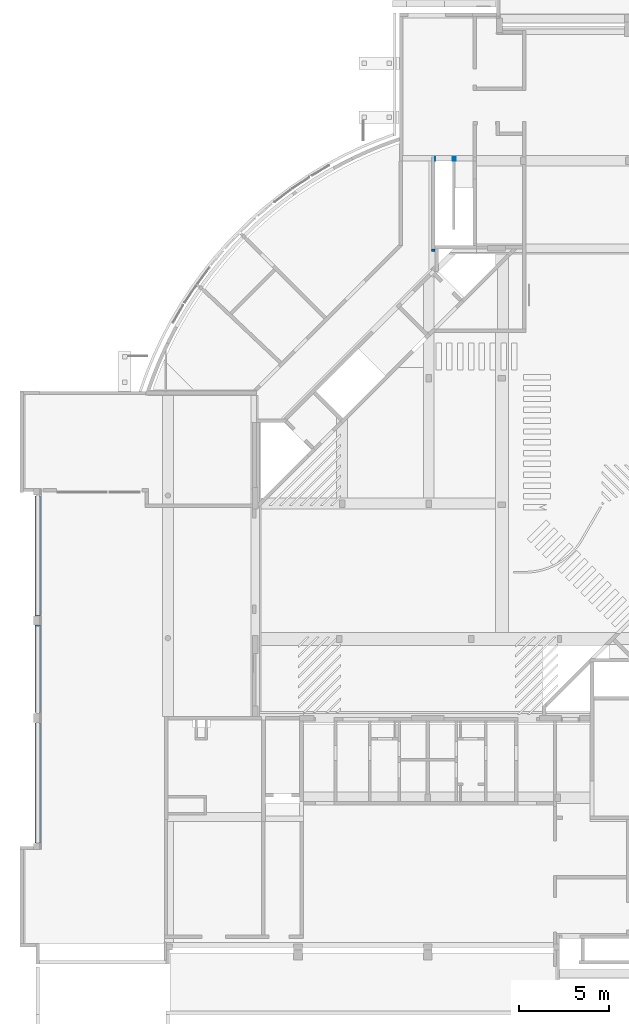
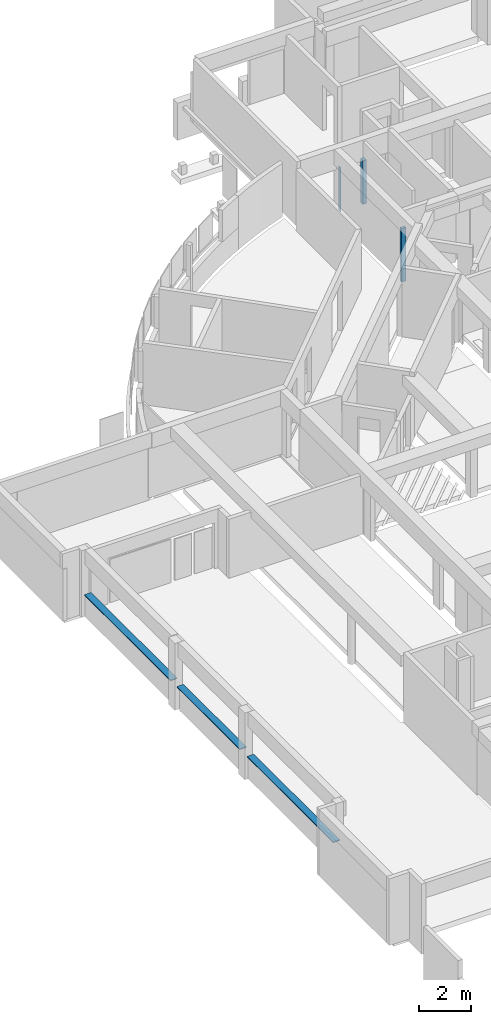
# One storey, part 11 of 22: 3 discrete accessories, 2 walls.
"""IFC4X3_ADD2 building model written with IfcOpenShell, lengths in millimetres."""

import ifcopenshell
import ifcopenshell.guid

model = None  # the IFC model being written
_history = None  # IfcOwnerHistory: only IFC2X3 demands one
_inside = {}  # id of a spatial element -> (the spatial element, [elements in it])
_under = {}  # id of a project, library or spatial element -> (it, [spatial elements below it])
_declared = {}  # id of a project -> (the project, [libraries it declares])
_typed = {}  # id of a type object -> (the type object, [elements of that type])
_made_of = {}  # id of a material, layer set ... -> (it, [elements and type objects made of it])


def new_model(schema):
    """Start an empty IFC model of exactly this schema.

    Asked for "IFC4X3", IfcOpenShell would pick the latest addendum, in which some entities
    have other attributes; the version numbers below select the first issue.
    IFC2X3 requires an IfcOwnerHistory on every rooted entity: one is made here for all.
    """
    global model, _history
    if schema == "IFC4X3":
        model = ifcopenshell.file(schema_version=(4, 3, 0, 0))
    else:
        model = ifcopenshell.file(schema=schema)
    _inside.clear()
    _under.clear()
    _declared.clear()
    _typed.clear()
    _made_of.clear()
    _history = None
    if model.schema == "IFC2X3":
        org = make("IfcOrganization", Name="unknown")
        user = make(
            "IfcPersonAndOrganization",
            ThePerson=make("IfcPerson", FamilyName="unknown"),
            TheOrganization=org,
        )
        app = make(
            "IfcApplication",
            ApplicationDeveloper=org,
            Version="unknown",
            ApplicationFullName="unknown",
            ApplicationIdentifier="unknown",
        )
        _history = make(
            "IfcOwnerHistory",
            OwningUser=user,
            OwningApplication=app,
            ChangeAction="ADDED",
            CreationDate=0,
        )
    return model


def make(cls, **values):
    """One entity of the class cls with the attributes given. An attribute that is None is left unset."""
    return model.create_entity(
        cls, **{name: value for name, value in values.items() if value is not None}
    )


def rooted(cls, **values):
    """An entity with a GlobalId (a new one), such as an element, a storey or a relation."""
    return make(cls, GlobalId=ifcopenshell.guid.new(), OwnerHistory=_history, **values)


def si_unit(unit_type, name, prefix=None):
    """IfcSIUnit, for example si_unit("LENGTHUNIT", "METRE", prefix="MILLI")."""
    return make("IfcSIUnit", UnitType=unit_type, Prefix=prefix, Name=name)


def assignment(units):
    """IfcUnitAssignment: the units of a project."""
    return None if units is None else make("IfcUnitAssignment", Units=units)


def point(xyz):
    """IfcCartesianPoint."""
    return None if xyz is None else make("IfcCartesianPoint", Coordinates=xyz)


def direction(xyz):
    """IfcDirection."""
    return None if xyz is None else make("IfcDirection", DirectionRatios=xyz)


def frame(location, z_axis=None, x_axis=None):
    """IfcAxis2Placement3D, a coordinate frame: its origin and axes. An axis left out is left unset."""
    return make(
        "IfcAxis2Placement3D",
        Location=point(location),
        Axis=direction(z_axis),
        RefDirection=direction(x_axis),
    )


def frame_2d(location, x_axis=None):
    """IfcAxis2Placement2D, a coordinate frame in the plane: its origin and x axis."""
    return make(
        "IfcAxis2Placement2D", Location=point(location), RefDirection=direction(x_axis)
    )


def origin_with_axes():
    """The frame at (0, 0, 0) with the z axis (0, 0, 1) and the x axis (1, 0, 0) written out."""
    return frame((0.0, 0.0, 0.0), z_axis=(0.0, 0.0, 1.0), x_axis=(1.0, 0.0, 0.0))


def origin_2d_with_axis():
    """The frame at (0, 0) in the plane with the x axis (1, 0) written out."""
    return frame_2d((0.0, 0.0), x_axis=(1.0, 0.0))


def place(relative_to, where):
    """IfcLocalPlacement: puts the frame where relative to a parent placement (None: the world)."""
    return make(
        "IfcLocalPlacement", PlacementRelTo=relative_to, RelativePlacement=where
    )


def context(
    kind, dimensions, precision=None, world=None, true_north=None, identifier=None
):
    """IfcGeometricRepresentationContext, for example the 3D "Model" context."""
    return make(
        "IfcGeometricRepresentationContext",
        ContextIdentifier=identifier,
        ContextType=kind,
        CoordinateSpaceDimension=dimensions,
        Precision=precision,
        WorldCoordinateSystem=world,
        TrueNorth=true_north,
    )


def subcontext(parent, identifier, kind, view, scale=None):
    """IfcGeometricRepresentationSubContext, for example "Body" below "Model"."""
    return make(
        "IfcGeometricRepresentationSubContext",
        ContextIdentifier=identifier,
        ContextType=kind,
        ParentContext=parent,
        TargetScale=scale,
        TargetView=view,
    )


def project(units=None, contexts=None):
    """IfcProject with its units and contexts."""
    return rooted(
        "IfcProject",
        Name="project",
        RepresentationContexts=contexts,
        UnitsInContext=assignment(units),
    )


def spatial(cls, under=None, at=None, **own):
    """A site, building, storey or space (cls), placed at a placement, below another one or the project."""
    s = rooted(cls, ObjectPlacement=at, **own)
    if under is not None:
        _under.setdefault(under.id(), (under, []))[1].append(s)
    return s


def point_list(points):
    """IfcCartesianPointList2D or 3D."""
    cls = (
        "IfcCartesianPointList2D" if len(points[0]) == 2 else "IfcCartesianPointList3D"
    )
    return make(cls, CoordList=points)


def profile(cls, at=None, kind="AREA", **sizes):
    """A parametric profile (cls). Its sizes go by their IFC names, for example OverallWidth=200.0."""
    return make(cls, ProfileType=kind, Position=at, **sizes)


def rectangle(**sizes):
    """IfcRectangleProfileDef."""
    return profile("IfcRectangleProfileDef", **sizes)


def extrude(swept, where, along, depth):
    """IfcExtrudedAreaSolid: the profile swept, set in the frame where, extruded along a direction by depth."""
    return make(
        "IfcExtrudedAreaSolid",
        SweptArea=swept,
        Position=where,
        ExtrudedDirection=direction(along),
        Depth=depth,
    )


def polygons(points, faces, closed=None, point_numbers=None):
    """IfcPolygonalFaceSet: a face is its outer loop, then its inner loops; points numbered from 1."""
    made = []
    for loops in faces:
        if len(loops) == 1:
            made.append(make("IfcIndexedPolygonalFace", CoordIndex=loops[0]))
        else:
            made.append(
                make(
                    "IfcIndexedPolygonalFaceWithVoids",
                    CoordIndex=loops[0],
                    InnerCoordIndices=loops[1:],
                )
            )
    return make(
        "IfcPolygonalFaceSet",
        Coordinates=point_list(points),
        Closed=closed,
        Faces=made,
        PnIndex=point_numbers,
    )


def shape(context_of_items, identifier, shape_type, items):
    """IfcShapeRepresentation: the items that make up one representation, for example the "Body"."""
    return make(
        "IfcShapeRepresentation",
        ContextOfItems=context_of_items,
        RepresentationIdentifier=identifier,
        RepresentationType=shape_type,
        Items=items,
    )


def source(mapping_origin, context_of_items, identifier, shape_type, items):
    """IfcRepresentationMap: a shape defined once, which mapped items show again and again."""
    return make(
        "IfcRepresentationMap",
        MappingOrigin=mapping_origin,
        MappedRepresentation=shape(context_of_items, identifier, shape_type, items),
    )


def transform(
    local_origin,
    x_axis=None,
    y_axis=None,
    z_axis=None,
    scale=None,
    scale2=None,
    scale3=None,
    uniform=True,
):
    """IfcCartesianTransformationOperator3D, or its non-uniform kind. x_axis, y_axis, z_axis: its Axis1, 2, 3."""
    if uniform:
        return make(
            "IfcCartesianTransformationOperator3D",
            Axis1=direction(x_axis),
            Axis2=direction(y_axis),
            LocalOrigin=point(local_origin),
            Scale=scale,
            Axis3=direction(z_axis),
        )
    return make(
        "IfcCartesianTransformationOperator3DnonUniform",
        Axis1=direction(x_axis),
        Axis2=direction(y_axis),
        LocalOrigin=point(local_origin),
        Scale=scale,
        Axis3=direction(z_axis),
        Scale2=scale2,
        Scale3=scale3,
    )


def mapped(mapping_source, mapping_target):
    """IfcMappedItem: shows the shape of a source again, moved by a transform."""
    return make(
        "IfcMappedItem", MappingSource=mapping_source, MappingTarget=mapping_target
    )


def material(Name=None, Category=None):
    """IfcMaterial."""
    return make("IfcMaterial", Name=Name, Category=Category)


def made_of(thing, what):
    """Note that an element or type object is made of a material, layer set ...; save() writes the relation."""
    if what is not None:
        _made_of.setdefault(what.id(), (what, []))[1].append(thing)
    return thing


def type_object(cls, material=None, **own):
    """A type object (cls), such as IfcWallType, which elements share."""
    return made_of(rooted(cls, **own), material)


def type_shapes(of_type, sources):
    """Give a type object the sources (RepresentationMaps) that its elements show as mapped items."""
    of_type.RepresentationMaps = sources


def element(
    cls,
    number,
    at=None,
    inside=None,
    cuts=None,
    type_object=None,
    material=None,
    context=None,
    identifier="Body",
    shape_type=None,
    held_by="IfcProductDefinitionShape",
    body=None,
    shapes=None,
    **own,
):
    """One element of the class cls, such as IfcWall. Its Tag is "e" and its number.

    at: its placement. inside: the storey or other place that contains it. cuts: it is an
    opening in that element (IfcRelVoidsElement). A single representation is given by context,
    identifier, shape_type and body (its items); several are given by shapes. held_by: the class
    of the entity that holds the representations. save() writes the other relations.
    """
    e = rooted(cls, Tag="e%d" % number, ObjectPlacement=at, **own)
    if body is not None:
        shapes = [shape(context, identifier, shape_type, body)]
    if shapes is not None:
        e.Representation = make(held_by, Representations=shapes)
    if inside is not None:
        _inside.setdefault(inside.id(), (inside, []))[1].append(e)
    if cuts is not None:
        rooted(
            "IfcRelVoidsElement", RelatingBuildingElement=cuts, RelatedOpeningElement=e
        )
    if type_object is not None:
        _typed.setdefault(type_object.id(), (type_object, []))[1].append(e)
    return made_of(e, material)


def aggregate(whole, parts):
    """IfcRelAggregates: a whole, such as a stair, and the parts it consists of."""
    return rooted("IfcRelAggregates", RelatingObject=whole, RelatedObjects=parts)


def save(model, path):
    """Write the relations noted so far, then the file.

    IfcRelAggregates (storeys below a building ...), IfcRelContainedInSpatialStructure (elements
    in a storey), IfcRelDefinesByType, IfcRelAssociatesMaterial and IfcRelDeclares: one each for
    every whole, place, type object, material and project.
    """
    for whole, parts in _under.values():
        aggregate(whole, parts)
    for where, things in _inside.values():
        rooted(
            "IfcRelContainedInSpatialStructure",
            RelatedElements=things,
            RelatingStructure=where,
        )
    for kind, things in _typed.values():
        rooted("IfcRelDefinesByType", RelatedObjects=things, RelatingType=kind)
    for what, things in _made_of.values():
        rooted("IfcRelAssociatesMaterial", RelatedObjects=things, RelatingMaterial=what)
    for by, libraries in _declared.values():
        rooted("IfcRelDeclares", RelatingContext=by, RelatedDefinitions=libraries)
    model.write(path)


model = new_model("IFC4X3_ADD2")

# Units and contexts
model_context = context("Model", 3, precision=1e-05, world=origin_with_axes(), true_north=direction((0.0, 1.0)))
body_context = subcontext(model_context, "Body", "Model", "MODEL_VIEW")
ifc_project = project(units=[si_unit("LENGTHUNIT", "METRE", prefix="MILLI"), si_unit("AREAUNIT", "SQUARE_METRE"), si_unit("VOLUMEUNIT", "CUBIC_METRE"), si_unit("PLANEANGLEUNIT", "RADIAN"), si_unit("TIMEUNIT", "SECOND"), si_unit("MASSUNIT", "GRAM")], contexts=[model_context])

# Site, building, storey
site_placement = place(None, origin_with_axes())
site = spatial("IfcSite", under=ifc_project, at=site_placement, Name="Site", CompositionType="ELEMENT")
building_placement = place(site_placement, origin_with_axes())
building = spatial("IfcBuilding", under=site, at=building_placement, Name="IFC Building Story")
storey_placement = place(building_placement, frame((0.0, 0.0, -3240.0), z_axis=(0.0, 0.0, 1.0), x_axis=(1.0, 0.0, 0.0)))
storey = spatial("IfcBuildingStorey", under=building, at=storey_placement, Name="K10", Elevation=-3240.0)

# Walls
ifc_material_1 = material(Name="BB_Beton_Bestaand")
wall_type = type_object("IfcWallType", Name="Basic Wall_BB_XX_Wand uit beton_ 200 mm", PredefinedType="NOTDEFINED")
shared_shape_1 = source(origin_with_axes(), body_context, "Body", "Tessellation", [
    polygons([(0.0, -99.9999999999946, 2060.0), (0.0, -99.9999999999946, 0.0), (16.0000000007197, -99.9999999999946, 0.0), (16.0000000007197, -99.9999999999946, 2060.0), (0.0, 100.000000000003, 0.0), (16.0000000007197, 100.000000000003, 0.0), (0.0, 100.000000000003, 2060.0), (16.0000000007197, 100.000000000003, 2060.0)], [[[1, 2, 3, 4]], [[2, 5, 6, 3]], [[2, 1, 7, 5]], [[4, 3, 6, 8]], [[7, 1, 4, 8]], [[5, 7, 8, 6]]]),
    polygons([(1139.99999999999, 100.000000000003, 2060.0), (1139.99999999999, 100.000000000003, 0.0), (980.000000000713, 100.000000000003, 0.0), (980.000000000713, 100.000000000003, 2060.0), (1139.99999999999, -99.9999999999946, 2060.0), (1139.99999999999, -99.9999999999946, 0.0), (980.000000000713, -99.9999999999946, 2060.0), (980.000000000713, -99.9999999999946, 0.0)], [[[1, 2, 3, 4]], [[5, 6, 2, 1]], [[5, 1, 4, 7]], [[8, 7, 4, 3]], [[2, 6, 8, 3]], [[6, 5, 7, 8]]]),
])
type_shapes(wall_type, [shared_shape_1])
wall_1_placement = place(storey_placement, frame((-28700.0, 43600.0, 0.0), z_axis=(0.0, 0.0, 1.0), x_axis=(1.0, 0.0, 0.0)))
element("IfcWall", 1, at=wall_1_placement, inside=storey, type_object=wall_type, material=ifc_material_1, Name="Basic Wall:BB_XX_Wand uit beton, 200 mm", ObjectType="Basic Wall:BB_XX_Wand uit beton, 200 mm", PredefinedType="SOLIDWALL", context=body_context, shape_type="MappedRepresentation", body=[
    mapped(shared_shape_1, transform((0.0, 0.0, 0.0))),
])
wall_2_placement = place(storey_placement, frame((0.0, 0.0, 3240.0), z_axis=(0.0, 0.0, 1.0), x_axis=(1.0, 0.0, 0.0)))
element("IfcWall", 2, at=wall_2_placement, inside=storey, Name="Basic Wall:BB_XX_Wand uit beton, 200 mm", ObjectType="Basic Wall:BB_XX_Wand uit beton, 200 mm", PredefinedType="SOLIDWALL", context=body_context, shape_type="Tessellation", body=[
    polygons([(-28700.0, 38467.2837727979, -3440.0), (-28700.0, 38599.99593411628, -3440.0), (-28700.0, 38599.99593411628, -920.0), (-28700.0, 38467.2837727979, -920.0), (-28900.0, 38599.99593411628, -3440.0), (-28900.0, 38467.2837727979, -3440.0), (-28900.0, 38467.2837727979, -920.0), (-28900.0, 38599.99593411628, -920.0)], [[[1, 2, 3, 4]], [[5, 6, 7, 8]], [[2, 1, 6, 5]], [[2, 5, 8, 3]], [[6, 1, 4, 7]], [[4, 3, 8, 7]]]),
])

# Discrete accessories
ifc_material_2 = material(Name="BB_Natuursteen")
shared_shape_2 = source(origin_with_axes(), body_context, "Body", "SweptSolid", [
    extrude(rectangle(XDim=6650.0, YDim=300.0, at=origin_2d_with_axis()), frame((3325.0, 150.0, -40.0), z_axis=(0.0, 0.0, 1.0), x_axis=(1.0, 0.0, 0.0)), (0.0, 0.0, 1.0), 40.0),
])
for number, where, z_axis, x_axis in (
    (3, (-50855.0, 24925.0, 990.0), (0.0, 0.0, 1.0), (0.0, -1.0, 0.0)),
    (4, (-50855.0, 12355.0, 990.0), (0.0, 0.0, 1.0), (0.0, -1.0, 0.0)),
):
    element("IfcDiscreteAccessory", number, at=place(storey_placement, frame(where, z_axis=z_axis, x_axis=x_axis)), inside=storey, material=ifc_material_2, Name="BB_03.07.12_Kleine gevelelementen uit natuursteen, recuperatie_GMO:6650 x 300 mm", ObjectType="BB_03.07.12_Kleine gevelelementen uit natuursteen, recuperatie_GMO:6650 x 300 mm", PredefinedType="USERDEFINED", context=body_context, shape_type="MappedRepresentation", body=[
        mapped(shared_shape_2, transform((0.0, 0.0, 0.0))),
    ])
shared_shape_3 = source(origin_with_axes(), body_context, "Body", "SweptSolid", [
    extrude(rectangle(XDim=4850.0, YDim=300.0, at=origin_2d_with_axis()), frame((2425.0, 150.0, -40.0), z_axis=(0.0, 0.0, 1.0), x_axis=(1.0, 0.0, 0.0)), (0.0, 0.0, 1.0), 40.0),
])
discrete_accessory_placement = place(storey_placement, frame((-50855.0, 17785.0, 990.0), z_axis=(0.0, 0.0, 1.0), x_axis=(0.0, -1.0, 0.0)))
element("IfcDiscreteAccessory", 5, at=discrete_accessory_placement, inside=storey, material=ifc_material_2, Name="BB_03.07.12_Kleine gevelelementen uit natuursteen, recuperatie_GMO:4850 x 300 mm", ObjectType="BB_03.07.12_Kleine gevelelementen uit natuursteen, recuperatie_GMO:4850 x 300 mm", PredefinedType="USERDEFINED", context=body_context, shape_type="MappedRepresentation", body=[
    mapped(shared_shape_3, transform((0.0, 0.0, 0.0))),
])

save(model, "model.ifc")
